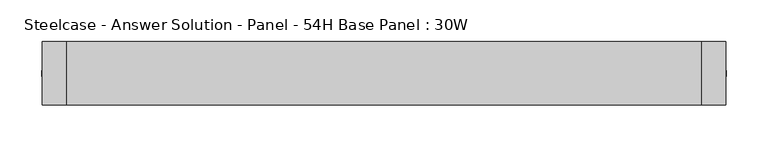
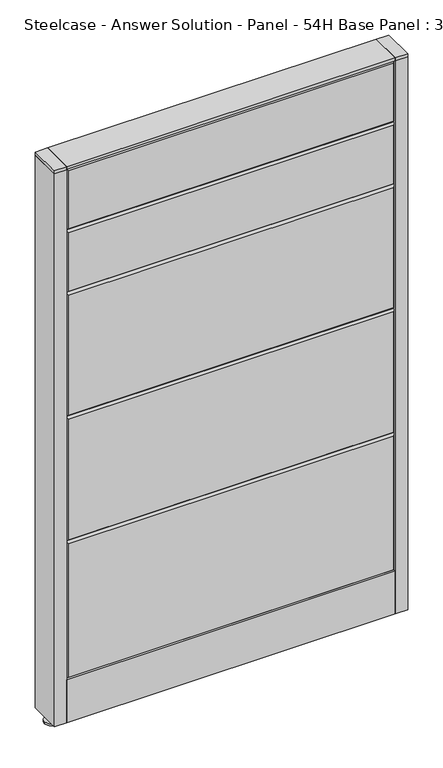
"""IFC4 building model written with IfcOpenShell, lengths in millimetres: furniture geometry, Steelcase - Answer Solution - Panel - 54H Base Panel : 30W."""

from ifc_helpers import new_model, si_unit, point, frame, frame_2d, origin, place, context, project, spatial, polyline, circle_curve, trimmed, segment, composite_curve, outline, extrude, faceted_brep, source, transform, mapped, element, save


def steelcase_answer_solution_panel_54h_base_panel_30w_49e40565(model_context):
    return source(origin(), model_context, "Body", "SolidModel", [
        extrude(outline(composite_curve([segment(trimmed(circle_curve(frame_2d((395.224, 0.0320214)), 5.08), [point((400.304, 0.0320214))], [point((390.144, 0.0320214))], False, "CARTESIAN"), True, "CONTINUOUS"), segment(trimmed(circle_curve(frame_2d((395.224, 0.0320214)), 5.08), [point((390.144, 0.0320214))], [point((400.304, 0.0320214))], False, "CARTESIAN"), True, "CONTINUOUS")], self_intersect=False)), frame((0.0, 0.0, 5.0799671), z_axis=(0.0, 0.0, 1.0), x_axis=(1.0, 0.0, 0.0)), (0.0, 0.0, 1.0), 10.414),
        extrude(outline(composite_curve([segment(trimmed(circle_curve(frame_2d((395.224, 0.0320214)), 15.24), [point((410.464, 0.0320214))], [point((379.984, 0.0320214))], False, "CARTESIAN"), True, "CONTINUOUS"), segment(trimmed(circle_curve(frame_2d((395.224, 0.0320214)), 15.24), [point((379.984, 0.0320214))], [point((410.464, 0.0320214))], False, "CARTESIAN"), True, "CONTINUOUS")], self_intersect=False)), frame((0.0, 0.0, -3.29e-05), z_axis=(0.0, 0.0, 1.0), x_axis=(1.0, 0.0, 0.0)), (0.0, 0.0, 1.0), 5.08),
        extrude(outline(polyline([(409.575, 38.1320408), (409.575, -38.0679592), (381.0, -38.0679592), (381.0, 38.1320408), (409.575, 38.1320408)])), frame((0.0, 0.0, 1370.6348), z_axis=(0.0, 0.0, 1.0), x_axis=(1.0, 0.0, 0.0)), (0.0, 0.0, 1.0), 7.3151671),
        extrude(outline(polyline([(409.575, 38.1320408), (409.575, -38.0679592), (381.0, -38.0679592), (381.0, 38.1320408), (409.575, 38.1320408)])), frame((0.0, 0.0, 15.4939671), z_axis=(0.0, 0.0, 1.0), x_axis=(1.0, 0.0, 0.0)), (0.0, 0.0, 1.0), 1355.1408329),
        extrude(outline(composite_curve([segment(trimmed(circle_curve(frame_2d((-395.224, 0.0320214)), 5.08), [point((-400.304, 0.0320214))], [point((-390.144, 0.0320214))], False, "CARTESIAN"), True, "CONTINUOUS"), segment(trimmed(circle_curve(frame_2d((-395.224, 0.0320214)), 5.08), [point((-390.144, 0.0320214))], [point((-400.304, 0.0320214))], False, "CARTESIAN"), True, "CONTINUOUS")], self_intersect=False)), frame((0.0, 0.0, 5.0799671), z_axis=(0.0, 0.0, 1.0), x_axis=(1.0, 0.0, 0.0)), (0.0, 0.0, 1.0), 10.414),
        extrude(outline(composite_curve([segment(trimmed(circle_curve(frame_2d((-395.224, 0.0320214)), 15.24), [point((-410.464, 0.0320214))], [point((-379.984, 0.0320214))], False, "CARTESIAN"), True, "CONTINUOUS"), segment(trimmed(circle_curve(frame_2d((-395.224, 0.0320214)), 15.24), [point((-379.984, 0.0320214))], [point((-410.464, 0.0320214))], False, "CARTESIAN"), True, "CONTINUOUS")], self_intersect=False)), frame((0.0, 0.0, -3.29e-05), z_axis=(0.0, 0.0, 1.0), x_axis=(1.0, 0.0, 0.0)), (0.0, 0.0, 1.0), 5.08),
        extrude(outline(polyline([(-409.575, 38.1320408), (-381.0, 38.1320408), (-381.0, -38.0679592), (-409.575, -38.0679592), (-409.575, 38.1320408)])), frame((0.0, 0.0, 1370.6348), z_axis=(0.0, 0.0, 1.0), x_axis=(1.0, 0.0, 0.0)), (0.0, 0.0, 1.0), 7.3151671),
        extrude(outline(polyline([(-409.575, 38.1320408), (-381.0, 38.1320408), (-381.0, -38.0679592), (-409.575, -38.0679592), (-409.575, 38.1320408)])), frame((0.0, 0.0, 15.4939671), z_axis=(0.0, 0.0, 1.0), x_axis=(1.0, 0.0, 0.0)), (0.0, 0.0, 1.0), 1355.1408329),
        faceted_brep([(-376.174, 38.1635011, 1366.774), (376.174, 38.1635011, 1366.774), (376.174, 38.1635011, 1224.026), (-376.174, 38.1635011, 1224.026), (-381.0, 33.3375011, 1371.6), (-381.0, 33.3375011, 1219.2), (381.0, 33.3375011, 1219.2), (381.0, 33.3375011, 1371.6)], [[[0, 1, 2, 3]], [[4, 5, 6, 7]], [[4, 7, 1, 0]], [[7, 6, 2, 1]], [[6, 5, 3, 2]], [[5, 4, 0, 3]]]),
        faceted_brep([(-376.174, 38.1635011, 1214.374), (376.174, 38.1635011, 1214.374), (376.174, 38.1635011, 1071.626), (-376.174, 38.1635011, 1071.626), (-381.0, 33.3375011, 1219.2), (-381.0, 33.3375011, 1066.8), (381.0, 33.3375011, 1066.8), (381.0, 33.3375011, 1219.2)], [[[0, 1, 2, 3]], [[4, 5, 6, 7]], [[4, 7, 1, 0]], [[7, 6, 2, 1]], [[6, 5, 3, 2]], [[5, 4, 0, 3]]]),
        faceted_brep([(-376.174, 38.1635011, 1061.974), (376.174, 38.1635011, 1061.974), (376.174, 38.1635011, 766.826), (-376.174, 38.1635011, 766.826), (-381.0, 33.3375011, 1066.8), (-381.0, 33.3375011, 762.0), (381.0, 33.3375011, 762.0), (381.0, 33.3375011, 1066.8)], [[[0, 1, 2, 3]], [[4, 5, 6, 7]], [[4, 7, 1, 0]], [[7, 6, 2, 1]], [[6, 5, 3, 2]], [[5, 4, 0, 3]]]),
        faceted_brep([(-376.174, 38.1635011, 757.174), (376.174, 38.1635011, 757.174), (376.174, 38.1635011, 462.026), (-376.174, 38.1635011, 462.026), (-381.0, 33.3375011, 762.0), (-381.0, 33.3375011, 457.2), (381.0, 33.3375011, 457.2), (381.0, 33.3375011, 762.0)], [[[0, 1, 2, 3]], [[4, 5, 6, 7]], [[4, 7, 1, 0]], [[7, 6, 2, 1]], [[6, 5, 3, 2]], [[5, 4, 0, 3]]]),
        faceted_brep([(-376.174, 38.1635011, 452.374), (376.174, 38.1635011, 452.374), (376.174, 38.1635011, 125.476), (-376.174, 38.1635011, 125.476), (-381.0, 33.3375011, 457.2), (-381.0, 33.3375011, 120.65), (381.0, 33.3375011, 120.65), (381.0, 33.3375011, 457.2)], [[[0, 1, 2, 3]], [[4, 5, 6, 7]], [[4, 7, 1, 0]], [[7, 6, 2, 1]], [[6, 5, 3, 2]], [[5, 4, 0, 3]]]),
        faceted_brep([(376.174, -38.1635011, 1366.774), (-376.174, -38.1635011, 1366.774), (-376.174, -38.1635011, 1224.026), (376.174, -38.1635011, 1224.026), (381.0, -33.3375011, 1371.6), (381.0, -33.3375011, 1219.2), (-381.0, -33.3375011, 1219.2), (-381.0, -33.3375011, 1371.6)], [[[0, 1, 2, 3]], [[4, 5, 6, 7]], [[4, 7, 1, 0]], [[7, 6, 2, 1]], [[6, 5, 3, 2]], [[5, 4, 0, 3]]]),
        faceted_brep([(376.174, -38.1635011, 1214.374), (-376.174, -38.1635011, 1214.374), (-376.174, -38.1635011, 1071.626), (376.174, -38.1635011, 1071.626), (381.0, -33.3375011, 1219.2), (381.0, -33.3375011, 1066.8), (-381.0, -33.3375011, 1066.8), (-381.0, -33.3375011, 1219.2)], [[[0, 1, 2, 3]], [[4, 5, 6, 7]], [[4, 7, 1, 0]], [[7, 6, 2, 1]], [[6, 5, 3, 2]], [[5, 4, 0, 3]]]),
        faceted_brep([(376.174, -38.1635011, 1061.974), (-376.174, -38.1635011, 1061.974), (-376.174, -38.1635011, 766.826), (376.174, -38.1635011, 766.826), (381.0, -33.3375011, 1066.8), (381.0, -33.3375011, 762.0), (-381.0, -33.3375011, 762.0), (-381.0, -33.3375011, 1066.8)], [[[0, 1, 2, 3]], [[4, 5, 6, 7]], [[4, 7, 1, 0]], [[7, 6, 2, 1]], [[6, 5, 3, 2]], [[5, 4, 0, 3]]]),
        faceted_brep([(376.174, -38.1635011, 757.174), (-376.174, -38.1635011, 757.174), (-376.174, -38.1635011, 462.026), (376.174, -38.1635011, 462.026), (381.0, -33.3375011, 762.0), (381.0, -33.3375011, 457.2), (-381.0, -33.3375011, 457.2), (-381.0, -33.3375011, 762.0)], [[[0, 1, 2, 3]], [[4, 5, 6, 7]], [[4, 7, 1, 0]], [[7, 6, 2, 1]], [[6, 5, 3, 2]], [[5, 4, 0, 3]]]),
        faceted_brep([(376.174, -38.1635011, 452.374), (-376.174, -38.1635011, 452.374), (-376.174, -38.1635011, 125.476), (376.174, -38.1635011, 125.476), (381.0, -33.3375011, 457.2), (381.0, -33.3375011, 120.65), (-381.0, -33.3375011, 120.65), (-381.0, -33.3375011, 457.2)], [[[0, 1, 2, 3]], [[4, 5, 6, 7]], [[4, 7, 1, 0]], [[7, 6, 2, 1]], [[6, 5, 3, 2]], [[5, 4, 0, 3]]]),
        extrude(outline(polyline([(381.0, 38.1000194), (381.0, -38.1000194), (-381.0, -38.1000194), (-381.0, 38.1000194), (381.0, 38.1000194)])), frame((0.0, 0.0, 1371.6), z_axis=(0.0, 0.0, 1.0), x_axis=(1.0, 0.0, 0.0)), (0.0, 0.0, 1.0), 6.35),
        extrude(outline(polyline([(25.4000011, 119.8575157), (25.4000011, 120.65), (38.1000194, 120.65), (38.1000194, 15.494), (37.3075215, 15.494), (37.3075215, 119.8575157), (25.4000011, 119.8575157)])), frame((-381.0, 0.0, 0.0), z_axis=(1.0, 0.0, 0.0), x_axis=(0.0, 1.0, 0.0)), (0.0, 0.0, 1.0), 762.0),
        extrude(outline(polyline([(-25.4000011, 119.8575157), (-37.3075215, 119.8575157), (-37.3075215, 15.494), (-38.1000194, 15.494), (-38.1000194, 120.65), (-25.4000011, 120.65), (-25.4000011, 119.8575157)])), frame((-381.0, 0.0, 0.0), z_axis=(1.0, 0.0, 0.0), x_axis=(0.0, 1.0, 0.0)), (0.0, 0.0, 1.0), 762.0),
    ])


if __name__ == "__main__":
    model = new_model("IFC4")
    model_context = context("Model", 3, world=origin())
    ifc_project = project(units=[si_unit("LENGTHUNIT", "METRE", prefix="MILLI")], contexts=[model_context])
    site = spatial("IfcSite", under=ifc_project)
    building = spatial("IfcBuilding", under=site)
    placement = place(None, origin())
    steelcase_answer_solution_panel_54h_base_panel_30w_shape = steelcase_answer_solution_panel_54h_base_panel_30w_49e40565(model_context)
    element("IfcFurniture", 1, ObjectType="Steelcase - Answer Solution - Panel - 54H Base Panel : 30W", at=placement, inside=building, context=model_context, shape_type="MappedRepresentation", body=[
        mapped(steelcase_answer_solution_panel_54h_base_panel_30w_shape, transform((0.0, 0.0, 0.0), x_axis=(1.0, 0.0, 0.0), y_axis=(0.0, 1.0, 0.0), z_axis=(0.0, 0.0, 1.0))),
    ])
    save(model, "model.ifc")
